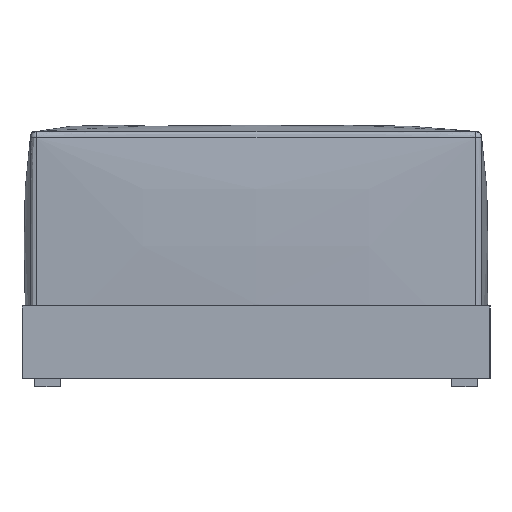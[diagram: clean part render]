
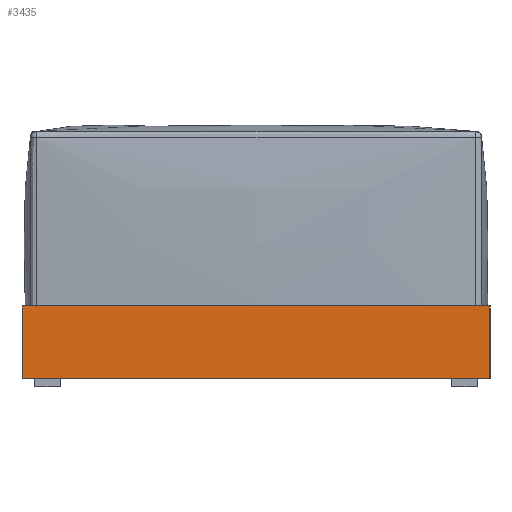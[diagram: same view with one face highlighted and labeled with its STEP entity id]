
A CAD part, left-side view. The second image highlights one B-rep face of the part: STEP entity #3435.
In plain terms, the highlighted planar face has unit normal (-1, 0, 0).
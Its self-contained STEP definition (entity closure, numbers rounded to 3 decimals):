
#123=PLANE('',#3854);
#265=LINE('',#13913,#491);
#266=LINE('',#13915,#492);
#267=LINE('',#13917,#493);
#268=LINE('',#13918,#494);
#491=VECTOR('',#4496,10.);
#492=VECTOR('',#4497,10.);
#493=VECTOR('',#4498,10.);
#494=VECTOR('',#4499,10.);
#1027=FACE_OUTER_BOUND('',#1279,.T.);
#1279=EDGE_LOOP('',(#2883,#2884,#2885,#2886));
#1667=VERTEX_POINT('',#13911);
#1668=VERTEX_POINT('',#13912);
#1669=VERTEX_POINT('',#13914);
#1670=VERTEX_POINT('',#13916);
#2091=EDGE_CURVE('',#1667,#1668,#265,.T.);
#2092=EDGE_CURVE('',#1667,#1669,#266,.T.);
#2093=EDGE_CURVE('',#1670,#1669,#267,.T.);
#2094=EDGE_CURVE('',#1668,#1670,#268,.T.);
#2883=ORIENTED_EDGE('',*,*,#2091,.F.);
#2884=ORIENTED_EDGE('',*,*,#2092,.T.);
#2885=ORIENTED_EDGE('',*,*,#2093,.F.);
#2886=ORIENTED_EDGE('',*,*,#2094,.F.);
#3435=ADVANCED_FACE('',(#1027),#123,.T.);
#3854=AXIS2_PLACEMENT_3D('',#13910,#4494,#4495);
#4494=DIRECTION('center_axis',(-1.,0.,0.));
#4495=DIRECTION('ref_axis',(0.,-1.,0.));
#4496=DIRECTION('',(0.,1.,0.));
#4497=DIRECTION('',(0.,0.,1.));
#4498=DIRECTION('',(0.,-1.,0.));
#4499=DIRECTION('',(0.,0.,1.));
#13910=CARTESIAN_POINT('Origin',(-1300.,550.,0.));
#13911=CARTESIAN_POINT('',(-1300.,-550.,0.));
#13912=CARTESIAN_POINT('',(-1300.,550.,0.));
#13913=CARTESIAN_POINT('',(-1300.,-550.,0.));
#13914=CARTESIAN_POINT('',(-1300.,-550.,170.));
#13915=CARTESIAN_POINT('',(-1300.,-550.,0.));
#13916=CARTESIAN_POINT('',(-1300.,550.,170.));
#13917=CARTESIAN_POINT('',(-1300.,-550.,170.));
#13918=CARTESIAN_POINT('',(-1300.,550.,0.));
